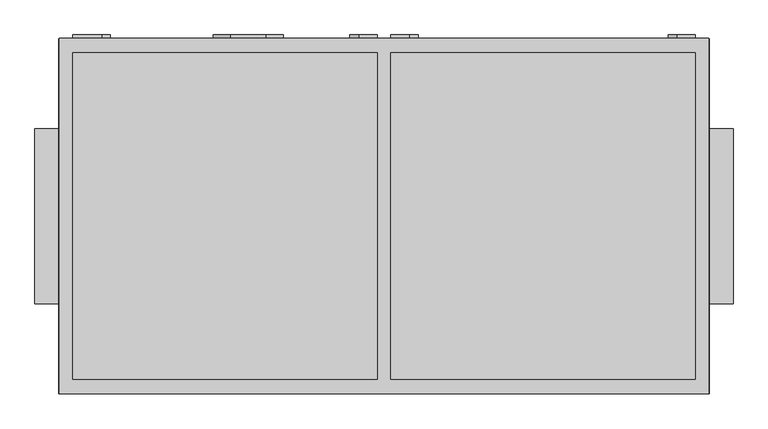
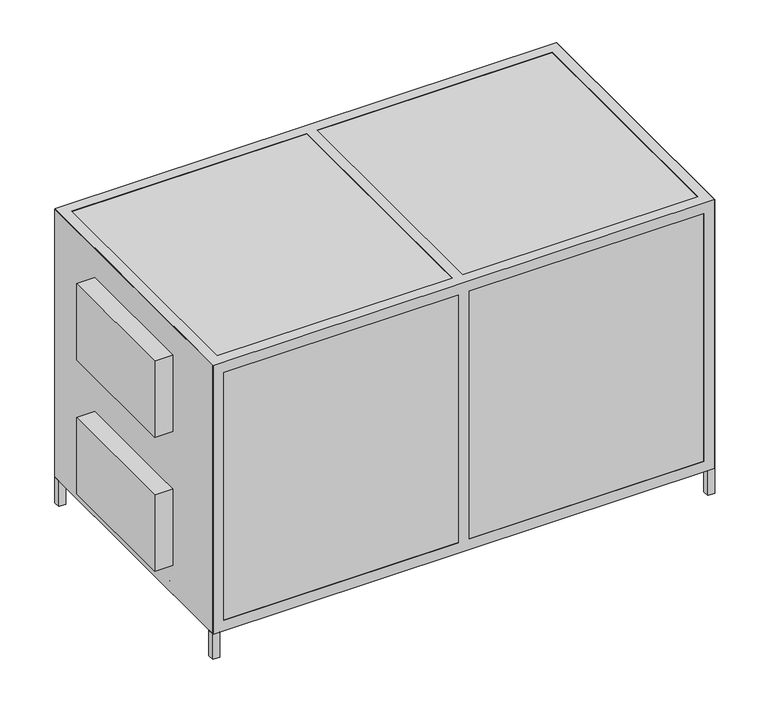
"""IFC4 building model written with IfcOpenShell, lengths in millimetres: proxy geometry, AVS 2200...3800-S-RC(RG)-L : AVS 3800-S-RG-L."""

from ifc_helpers import new_model, si_unit, point, frame, frame_2d, origin, origin_with_axes, place, context, project, spatial, polyline, circle_curve, trimmed, segment, composite_curve, outline, extrude, faceted_brep, source, transform, mapped, element, save


def mechanical_equipment_9d146b96(model_context):
    return source(origin(), model_context, "Body", "SolidModel", [
        extrude(outline(polyline([(905.0, 507.0), (930.0, 507.0), (930.0, 482.0), (905.0, 482.0), (905.0, 507.0)])), origin_with_axes(), (0.0, 0.0, 1.0), 100.0),
        extrude(outline(polyline([(905.0, -507.0), (905.0, -482.0), (930.0, -482.0), (930.0, -507.0), (905.0, -507.0)])), origin_with_axes(), (0.0, 0.0, 1.0), 100.0),
        extrude(outline(polyline([(-930.0, 482.0), (-930.0, 507.0), (-905.0, 507.0), (-905.0, 482.0), (-930.0, 482.0)])), origin_with_axes(), (0.0, 0.0, 1.0), 100.0),
        extrude(outline(polyline([(-930.0, -482.0), (-905.0, -482.0), (-905.0, -507.0), (-930.0, -507.0), (-930.0, -482.0)])), origin_with_axes(), (0.0, 0.0, 1.0), 100.0),
        faceted_brep([(929.0, 508.0, 1153.0), (-929.0, 508.0, 1153.0), (-929.0, -508.0, 1153.0), (929.0, -508.0, 1153.0), (-890.0, 467.0, 1153.0), (-20.0, 467.0, 1153.0), (-20.0, -467.0, 1153.0), (-890.0, -467.0, 1153.0), (890.0, 467.0, 1153.0), (890.0, -467.0, 1153.0), (20.0, -467.0, 1153.0), (20.0, 467.0, 1153.0), (929.0, 508.0, 99.0), (929.0, -508.0, 99.0), (-929.0, -508.0, 99.0), (-929.0, 508.0, 99.0), (-20.0, 467.0, 99.0), (-890.0, 467.0, 99.0), (-890.0, -467.0, 99.0), (-20.0, -467.0, 99.0), (890.0, -467.0, 99.0), (890.0, 467.0, 99.0), (20.0, 467.0, 99.0), (20.0, -467.0, 99.0), (-20.0, 508.0, 1112.0), (-890.0, 508.0, 1112.0), (-890.0, 508.0, 140.0), (-20.0, 508.0, 140.0), (890.0, 508.0, 140.0), (890.0, 508.0, 1112.0), (20.0, 508.0, 1112.0), (20.0, 508.0, 140.0), (-929.0, -467.0, 1112.0), (-929.0, -467.0, 140.0), (-929.0, 467.0, 140.0), (-929.0, 467.0, 1112.0), (-890.0, -508.0, 1112.0), (-20.0, -508.0, 1112.0), (-20.0, -508.0, 140.0), (-890.0, -508.0, 140.0), (890.0, -508.0, 1112.0), (890.0, -508.0, 140.0), (20.0, -508.0, 140.0), (20.0, -508.0, 1112.0), (929.0, -467.0, 140.0), (929.0, -467.0, 1112.0), (929.0, 467.0, 1112.0), (929.0, 467.0, 140.0), (-890.0, 467.0, 1112.0), (-20.0, 467.0, 1112.0), (-20.0, 467.0, 140.0), (-890.0, 467.0, 140.0), (-20.0, -467.0, 1112.0), (-890.0, -467.0, 1112.0), (-890.0, -467.0, 140.0), (-20.0, -467.0, 140.0), (890.0, 467.0, 1112.0), (890.0, -467.0, 1112.0), (890.0, -467.0, 140.0), (890.0, 467.0, 140.0), (20.0, 467.0, 1112.0), (20.0, -467.0, 1112.0), (20.0, -467.0, 140.0), (20.0, 467.0, 140.0)], [[[0, 1, 2, 3], [4, 5, 6, 7], [8, 9, 10, 11]], [[12, 13, 14, 15], [16, 17, 18, 19], [20, 21, 22, 23]], [[1, 0, 12, 15], [24, 25, 26, 27], [28, 29, 30, 31]], [[2, 1, 15, 14], [32, 33, 34, 35]], [[3, 2, 14, 13], [36, 37, 38, 39], [40, 41, 42, 43]], [[0, 3, 13, 12], [44, 45, 46, 47]], [[5, 4, 48, 49]], [[17, 16, 50, 51]], [[7, 6, 52, 53]], [[19, 18, 54, 55]], [[9, 8, 56, 57]], [[21, 20, 58, 59]], [[40, 57, 58, 41]], [[56, 29, 28, 59]], [[35, 48, 53, 32]], [[45, 57, 56, 46]], [[49, 60, 61, 52]], [[51, 34, 33, 54]], [[47, 59, 58, 44]], [[55, 62, 63, 50]], [[36, 53, 52, 37]], [[24, 49, 48, 25]], [[54, 39, 38, 55]], [[50, 27, 26, 51]], [[32, 53, 54, 33]], [[52, 61, 62, 55]], [[44, 58, 57, 45]], [[48, 35, 34, 51]], [[60, 49, 50, 63]], [[59, 47, 46, 56]], [[4, 7, 53, 48]], [[18, 17, 51, 54]], [[53, 36, 39, 54]], [[25, 48, 51, 26]], [[6, 5, 49, 52]], [[16, 19, 55, 50]], [[37, 52, 55, 38]], [[49, 24, 27, 50]], [[8, 11, 60, 56]], [[22, 21, 59, 63]], [[11, 10, 61, 60]], [[23, 22, 63, 62]], [[30, 60, 63, 31]], [[61, 43, 42, 62]], [[10, 9, 57, 61]], [[20, 23, 62, 58]], [[57, 40, 43, 61]], [[29, 56, 60, 30]], [[41, 58, 62, 42]], [[59, 28, 31, 63]]]),
        extrude(outline(polyline([(-930.0, 507.0), (930.0, 507.0), (930.0, -507.0), (-930.0, -507.0), (-930.0, 507.0)])), frame((0.0, 0.0, 100.0), z_axis=(0.0, 0.0, 1.0), x_axis=(1.0, 0.0, 0.0)), (0.0, 0.0, 1.0), 1052.0),
        extrude(outline(composite_curve([segment(polyline([(914.0, -807.2895396), (914.0, -890.0), (864.0, -890.0), (864.0, -807.2895396)]), True, "CONTINUOUS"), segment(trimmed(circle_curve(frame_2d((889.0, -807.2895396)), 25.0), [point((864.0, -807.2895396))], [point((914.0, -807.2895396))], False, "CARTESIAN"), True, "CONTINUOUS")], self_intersect=False)), frame((0.0, 507.0, 0.0), z_axis=(0.0, 1.0, 0.0), x_axis=(0.0, 0.0, 1.0)), (0.0, 0.0, 1.0), 11.0),
        extrude(outline(composite_curve([segment(polyline([(388.0, -807.2895396), (388.0, -890.0), (338.0, -890.0), (338.0, -807.2895396)]), True, "CONTINUOUS"), segment(trimmed(circle_curve(frame_2d((363.0, -807.2895396)), 25.0), [point((338.0, -807.2895396))], [point((388.0, -807.2895396))], False, "CARTESIAN"), True, "CONTINUOUS")], self_intersect=False)), frame((0.0, 507.0, 0.0), z_axis=(0.0, 1.0, 0.0), x_axis=(0.0, 0.0, 1.0)), (0.0, 0.0, 1.0), 11.0),
        extrude(outline(composite_curve([segment(trimmed(circle_curve(frame_2d((819.0, -72.7104604)), 25.0), [point((844.0, -72.7104604))], [point((794.0, -72.7104604))], False, "CARTESIAN"), True, "CONTINUOUS"), segment(polyline([(794.0, -72.7104604), (794.0, -20.0), (844.0, -20.0), (844.0, -72.7104604)]), True, "CONTINUOUS")], self_intersect=False)), frame((0.0, 507.0, 0.0), z_axis=(0.0, 1.0, 0.0), x_axis=(0.0, 0.0, 1.0)), (0.0, 0.0, 1.0), 11.0),
        extrude(outline(composite_curve([segment(polyline([(408.0, -72.7104604), (408.0, -20.0), (458.0, -20.0), (458.0, -72.7104604)]), True, "CONTINUOUS"), segment(trimmed(circle_curve(frame_2d((433.0, -72.7104604)), 25.0), [point((458.0, -72.7104604))], [point((408.0, -72.7104604))], False, "CARTESIAN"), True, "CONTINUOUS")], self_intersect=False)), frame((0.0, 507.0, 0.0), z_axis=(0.0, 1.0, 0.0), x_axis=(0.0, 0.0, 1.0)), (0.0, 0.0, 1.0), 11.0),
        extrude(outline(composite_curve([segment(trimmed(circle_curve(frame_2d((1039.0, 837.2895396)), 25.0), [point((1064.0, 837.2895396))], [point((1014.0, 837.2895396))], False, "CARTESIAN"), True, "CONTINUOUS"), segment(polyline([(1014.0, 837.2895396), (1014.0, 890.0), (1064.0, 890.0), (1064.0, 837.2895396)]), True, "CONTINUOUS")], self_intersect=False)), frame((0.0, 507.0, 0.0), z_axis=(0.0, 1.0, 0.0), x_axis=(0.0, 0.0, 1.0)), (0.0, 0.0, 1.0), 11.0),
        extrude(outline(composite_curve([segment(polyline([(188.0, 837.2895396), (188.0, 890.0), (238.0, 890.0), (238.0, 837.2895396)]), True, "CONTINUOUS"), segment(trimmed(circle_curve(frame_2d((213.0, 837.2895396)), 25.0), [point((238.0, 837.2895396))], [point((188.0, 837.2895396))], False, "CARTESIAN"), True, "CONTINUOUS")], self_intersect=False)), frame((0.0, 507.0, 0.0), z_axis=(0.0, 1.0, 0.0), x_axis=(0.0, 0.0, 1.0)), (0.0, 0.0, 1.0), 11.0),
        extrude(outline(composite_curve([segment(polyline([(964.0, 72.7104604), (964.0, 20.0), (914.0, 20.0), (914.0, 72.7104604)]), True, "CONTINUOUS"), segment(trimmed(circle_curve(frame_2d((939.0, 72.7104604)), 25.0), [point((914.0, 72.7104604))], [point((964.0, 72.7104604))], False, "CARTESIAN"), True, "CONTINUOUS")], self_intersect=False)), frame((0.0, 507.0, 0.0), z_axis=(0.0, 1.0, 0.0), x_axis=(0.0, 0.0, 1.0)), (0.0, 0.0, 1.0), 11.0),
        extrude(outline(composite_curve([segment(trimmed(circle_curve(frame_2d((313.0, 72.7104604)), 25.0), [point((288.0, 72.7104604))], [point((338.0, 72.7104604))], False, "CARTESIAN"), True, "CONTINUOUS"), segment(polyline([(338.0, 72.7104604), (338.0, 20.0), (288.0, 20.0), (288.0, 72.7104604)]), True, "CONTINUOUS")], self_intersect=False)), frame((0.0, 507.0, 0.0), z_axis=(0.0, 1.0, 0.0), x_axis=(0.0, 0.0, 1.0)), (0.0, 0.0, 1.0), 11.0),
        extrude(outline(composite_curve([segment(polyline([(1012.9531077, -338.4249776), (1012.9531077, -438.4249776)]), True, "CONTINUOUS"), segment(trimmed(circle_curve(frame_2d((962.9531077, -438.4249776)), 50.0), [point((1012.9531077, -438.4249776))], [point((912.9531077, -438.4249776))], False, "CARTESIAN"), True, "CONTINUOUS"), segment(polyline([(912.9531077, -438.4249776), (912.9531077, -338.4249776)]), True, "CONTINUOUS"), segment(trimmed(circle_curve(frame_2d((962.9531077, -338.4249776)), 50.0), [point((912.9531077, -338.4249776))], [point((1012.9531077, -338.4249776))], False, "CARTESIAN"), True, "CONTINUOUS")], self_intersect=False)), frame((0.0, 507.0, 0.0), z_axis=(0.0, 1.0, 0.0), x_axis=(0.0, 0.0, 1.0)), (0.0, 0.0, 1.0), 11.0),
        extrude(outline(polyline([(-998.0, -250.0), (-998.0, 250.0), (-930.0, 250.0), (-930.0, -250.0), (-998.0, -250.0)])), frame((0.0, 0.0, 739.0), z_axis=(0.0, 0.0, 1.0), x_axis=(1.0, 0.0, 0.0)), (0.0, 0.0, 1.0), 300.0),
        extrude(outline(polyline([(-998.0, -250.0), (-998.0, 250.0), (-930.0, 250.0), (-930.0, -250.0), (-998.0, -250.0)])), frame((0.0, 0.0, 213.0), z_axis=(0.0, 0.0, 1.0), x_axis=(1.0, 0.0, 0.0)), (0.0, 0.0, 1.0), 300.0),
        extrude(outline(polyline([(998.0, 250.0), (998.0, -250.0), (930.0, -250.0), (930.0, 250.0), (998.0, 250.0)])), frame((0.0, 0.0, 739.0), z_axis=(0.0, 0.0, 1.0), x_axis=(1.0, 0.0, 0.0)), (0.0, 0.0, 1.0), 300.0),
        extrude(outline(polyline([(998.0, 250.0), (998.0, -250.0), (930.0, -250.0), (930.0, 250.0), (998.0, 250.0)])), frame((0.0, 0.0, 213.0), z_axis=(0.0, 0.0, 1.0), x_axis=(1.0, 0.0, 0.0)), (0.0, 0.0, 1.0), 300.0),
    ])


if __name__ == "__main__":
    model = new_model("IFC4")
    model_context = context("Model", 3, world=origin())
    ifc_project = project(units=[si_unit("LENGTHUNIT", "METRE", prefix="MILLI")], contexts=[model_context])
    site = spatial("IfcSite", under=ifc_project)
    building = spatial("IfcBuilding", under=site)
    placement = place(None, origin())
    mechanical_equipment_shape = mechanical_equipment_9d146b96(model_context)
    element("IfcBuildingElementProxy", 1, Name="AVS 2200...3800-S-RC(RG)-L : AVS 3800-S-RG-L", ObjectType="AVS 2200...3800-S-RC(RG)-L : AVS 3800-S-RG-L", at=placement, inside=building, context=model_context, shape_type="MappedRepresentation", body=[
        mapped(mechanical_equipment_shape, transform((0.0, 0.0, 0.0), x_axis=(1.0, 0.0, 0.0), y_axis=(0.0, 1.0, 0.0), z_axis=(0.0, 0.0, 1.0))),
    ])
    save(model, "model.ifc")
